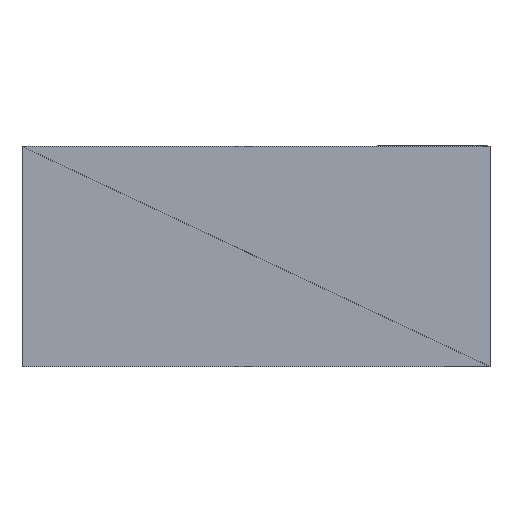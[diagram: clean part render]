
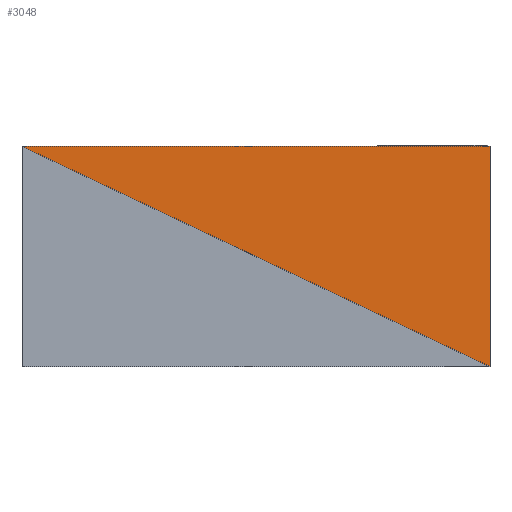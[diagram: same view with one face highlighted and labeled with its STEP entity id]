
A CAD part, left-side view. The second image highlights one B-rep face of the part: STEP entity #3048.
In plain terms, the highlighted planar face has unit normal (-1, 0, 0).
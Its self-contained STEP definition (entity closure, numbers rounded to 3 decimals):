
#2133 = VERTEX_POINT('',#2134);
#2134 = CARTESIAN_POINT('',(-0.228,0.346,
    0.686));
#3048 = ADVANCED_FACE('',(#3049),#3063,.T.);
#3049 = FACE_BOUND('',#3050,.T.);
#3050 = EDGE_LOOP('',(#3051,#3085,#3110));
#3051 = ORIENTED_EDGE('',*,*,#3052,.T.);
#3052 = EDGE_CURVE('',#3053,#3055,#3057,.T.);
#3053 = VERTEX_POINT('',#3054);
#3054 = CARTESIAN_POINT('',(-0.228,0.38,
    0.686));
#3055 = VERTEX_POINT('',#3056);
#3056 = CARTESIAN_POINT('',(-0.228,0.346,
    0.67));
#3057 = SURFACE_CURVE('',#3058,(#3062,#3074),.PCURVE_S1.);
#3058 = LINE('',#3059,#3060);
#3059 = CARTESIAN_POINT('',(-0.228,0.38,
    0.686));
#3060 = VECTOR('',#3061,1.);
#3061 = DIRECTION('',(0.,-0.905,-0.426));
#3062 = PCURVE('',#3063,#3068);
#3063 = PLANE('',#3064);
#3064 = AXIS2_PLACEMENT_3D('',#3065,#3066,#3067);
#3065 = CARTESIAN_POINT('',(-0.228,0.36,
    0.681));
#3066 = DIRECTION('',(-1.,0.,0.));
#3067 = DIRECTION('',(0.,0.,-1.));
#3068 = DEFINITIONAL_REPRESENTATION('',(#3069),#3073);
#3069 = LINE('',#3070,#3071);
#3070 = CARTESIAN_POINT('',(-0.005,-0.02));
#3071 = VECTOR('',#3072,1.);
#3072 = DIRECTION('',(0.426,0.905));
#3073 = ( GEOMETRIC_REPRESENTATION_CONTEXT(2) 
PARAMETRIC_REPRESENTATION_CONTEXT() REPRESENTATION_CONTEXT('2D SPACE',''
  ) );
#3074 = PCURVE('',#3075,#3080);
#3075 = PLANE('',#3076);
#3076 = AXIS2_PLACEMENT_3D('',#3077,#3078,#3079);
#3077 = CARTESIAN_POINT('',(-0.228,0.367,
    0.675));
#3078 = DIRECTION('',(-1.,0.,0.));
#3079 = DIRECTION('',(0.,0.,-1.));
#3080 = DEFINITIONAL_REPRESENTATION('',(#3081),#3084);
#3081 = B_SPLINE_CURVE_WITH_KNOTS('',1,(#3082,#3083),.UNSPECIFIED.,.F.,
  .F.,(2,2),(0.,0.038),.PIECEWISE_BEZIER_KNOTS.);
#3082 = CARTESIAN_POINT('',(-0.011,-0.014));
#3083 = CARTESIAN_POINT('',(0.005,0.02));
#3084 = ( GEOMETRIC_REPRESENTATION_CONTEXT(2) 
PARAMETRIC_REPRESENTATION_CONTEXT() REPRESENTATION_CONTEXT('2D SPACE',''
  ) );
#3085 = ORIENTED_EDGE('',*,*,#3086,.T.);
#3086 = EDGE_CURVE('',#3055,#2133,#3087,.T.);
#3087 = SURFACE_CURVE('',#3088,(#3092,#3099),.PCURVE_S1.);
#3088 = LINE('',#3089,#3090);
#3089 = CARTESIAN_POINT('',(-0.228,0.346,
    0.67));
#3090 = VECTOR('',#3091,1.);
#3091 = DIRECTION('',(0.,0.,1.));
#3092 = PCURVE('',#3063,#3093);
#3093 = DEFINITIONAL_REPRESENTATION('',(#3094),#3098);
#3094 = LINE('',#3095,#3096);
#3095 = CARTESIAN_POINT('',(0.011,0.014));
#3096 = VECTOR('',#3097,1.);
#3097 = DIRECTION('',(-1.,0.));
#3098 = ( GEOMETRIC_REPRESENTATION_CONTEXT(2) 
PARAMETRIC_REPRESENTATION_CONTEXT() REPRESENTATION_CONTEXT('2D SPACE',''
  ) );
#3099 = PCURVE('',#3100,#3105);
#3100 = PLANE('',#3101);
#3101 = AXIS2_PLACEMENT_3D('',#3102,#3103,#3104);
#3102 = CARTESIAN_POINT('',(-0.227,0.346,
    0.678));
#3103 = DIRECTION('',(0.,-1.,0.));
#3104 = DIRECTION('',(-1.,0.,0.));
#3105 = DEFINITIONAL_REPRESENTATION('',(#3106),#3109);
#3106 = B_SPLINE_CURVE_WITH_KNOTS('',1,(#3107,#3108),.UNSPECIFIED.,.F.,
  .F.,(2,2),(0.,0.016),.PIECEWISE_BEZIER_KNOTS.);
#3107 = CARTESIAN_POINT('',(0.,0.008));
#3108 = CARTESIAN_POINT('',(0.,-0.008));
#3109 = ( GEOMETRIC_REPRESENTATION_CONTEXT(2) 
PARAMETRIC_REPRESENTATION_CONTEXT() REPRESENTATION_CONTEXT('2D SPACE',''
  ) );
#3110 = ORIENTED_EDGE('',*,*,#3111,.T.);
#3111 = EDGE_CURVE('',#2133,#3053,#3112,.T.);
#3112 = SURFACE_CURVE('',#3113,(#3117,#3124),.PCURVE_S1.);
#3113 = LINE('',#3114,#3115);
#3114 = CARTESIAN_POINT('',(-0.228,0.346,
    0.686));
#3115 = VECTOR('',#3116,1.);
#3116 = DIRECTION('',(0.,1.,0.));
#3117 = PCURVE('',#3063,#3118);
#3118 = DEFINITIONAL_REPRESENTATION('',(#3119),#3123);
#3119 = LINE('',#3120,#3121);
#3120 = CARTESIAN_POINT('',(-0.005,0.014));
#3121 = VECTOR('',#3122,1.);
#3122 = DIRECTION('',(0.,-1.));
#3123 = ( GEOMETRIC_REPRESENTATION_CONTEXT(2) 
PARAMETRIC_REPRESENTATION_CONTEXT() REPRESENTATION_CONTEXT('2D SPACE',''
  ) );
#3124 = PCURVE('',#3125,#3130);
#3125 = PLANE('',#3126);
#3126 = AXIS2_PLACEMENT_3D('',#3127,#3128,#3129);
#3127 = CARTESIAN_POINT('',(-0.227,0.363,0.686
    ));
#3128 = DIRECTION('',(0.,0.,1.));
#3129 = DIRECTION('',(1.,0.,0.));
#3130 = DEFINITIONAL_REPRESENTATION('',(#3131),#3134);
#3131 = B_SPLINE_CURVE_WITH_KNOTS('',1,(#3132,#3133),.UNSPECIFIED.,.F.,
  .F.,(2,2),(0.,0.034),.PIECEWISE_BEZIER_KNOTS.);
#3132 = CARTESIAN_POINT('',(-0.001,-0.017));
#3133 = CARTESIAN_POINT('',(-0.001,0.017));
#3134 = ( GEOMETRIC_REPRESENTATION_CONTEXT(2) 
PARAMETRIC_REPRESENTATION_CONTEXT() REPRESENTATION_CONTEXT('2D SPACE',''
  ) );
